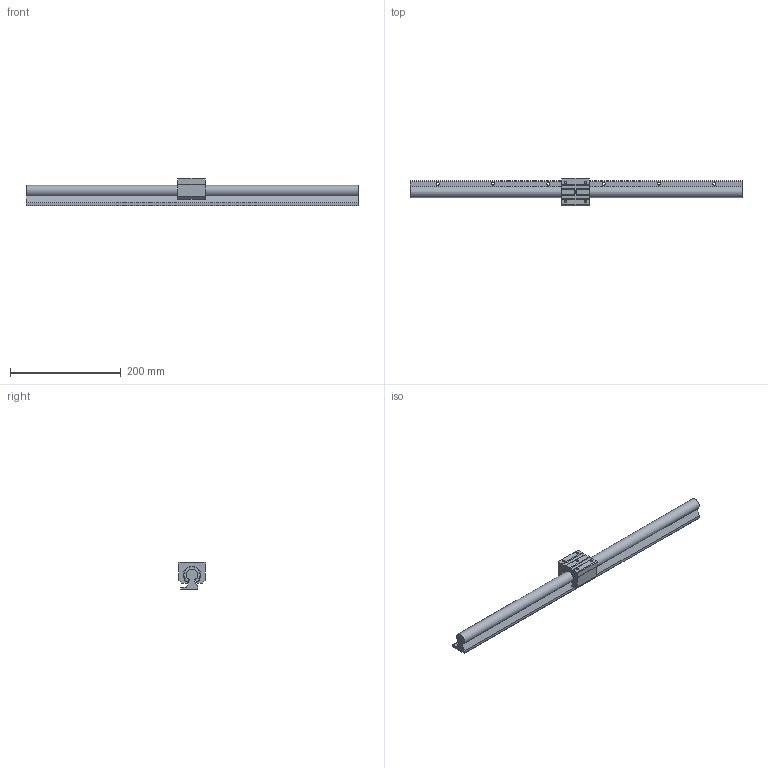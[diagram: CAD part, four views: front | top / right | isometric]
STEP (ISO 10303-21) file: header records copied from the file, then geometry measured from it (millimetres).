
FILE_DESCRIPTION((''),'2;1');
FILE_NAME('D:\製品 (図面)\カタログ用3D\リニアガイド関連\STEP形式\GHA(W)\GHA20.stp','2010-06-08T09:13:55',('Tsuchiya'),(''),'Autodesk Inventor 10','Autodesk Inventor 10','');
FILE_SCHEMA(('AUTOMOTIVE_DESIGN { 1 0 10303 214 1 1 1 1 }'));
Length unit declared in the file: millimetre
Products named in the file (3): GHA20; GHA201; GHA202
Assembly tree (2 placements, depth 2):
  GHA20
    GHA201
    GHA202
Bounding box: 600 x 50 x 50 mm (x, y, z)
Volume: 452361.9 mm3; surface area: 97703.8 mm2
Topology: 2 solids, 2 shells, 159 faces, 419 edges, 273 vertices
Faces by surface type: plane 97, cylinder 37, bspline 10, torus 8, cone 7
Full cylindrical faces by diameter (mm): 5.5 x6, 8.5 x6, 8.9 x6
Entity records: 4671 total; most frequent: CARTESIAN_POINT 1014, DIRECTION 720, ORIENTED_EDGE 716, EDGE_CURVE 358, VERTEX_POINT 252, AXIS2_PLACEMENT_3D 250, EDGE_LOOP 224, VECTOR 220
